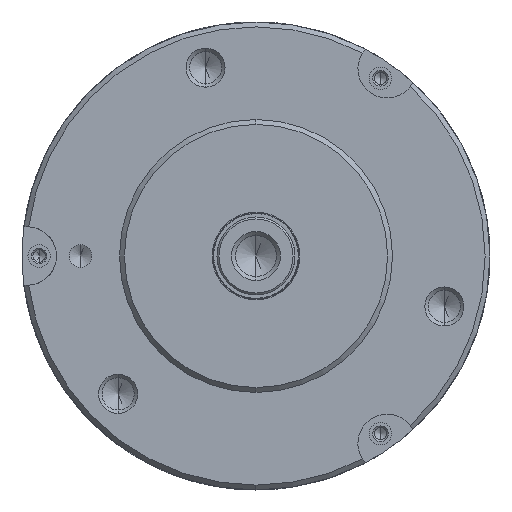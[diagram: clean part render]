
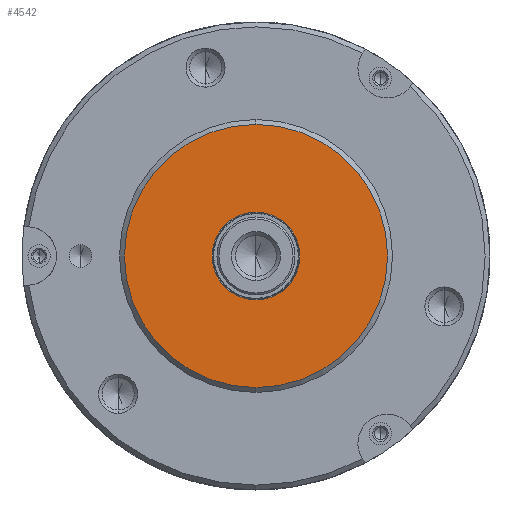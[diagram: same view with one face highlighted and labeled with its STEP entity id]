
A CAD part, left-side view. The second image highlights one B-rep face of the part: STEP entity #4542.
In plain terms, the highlighted planar face has unit normal (-1, 0, 0).
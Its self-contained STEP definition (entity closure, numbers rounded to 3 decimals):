
#332 = DIRECTION ( 'NONE',  ( 1., 0., 0. ) ) ;
#893 = DIRECTION ( 'NONE',  ( -1., 0., 0. ) ) ;
#988 = VERTEX_POINT ( 'NONE', #11091 ) ;
#1041 = DIRECTION ( 'NONE',  ( 0., 0., 1. ) ) ;
#1068 = DIRECTION ( 'NONE',  ( -1., 0., 0. ) ) ;
#1118 = CARTESIAN_POINT ( 'NONE',  ( 0., 0., 0. ) ) ;
#1672 = AXIS2_PLACEMENT_3D ( 'NONE', #10348, #1068, #1041 ) ;
#1710 = AXIS2_PLACEMENT_3D ( 'NONE', #11751, #332, #3539 ) ;
#2055 = CARTESIAN_POINT ( 'NONE',  ( 0., 0., -13.5 ) ) ;
#2176 = CARTESIAN_POINT ( 'NONE',  ( 0., 14., 0. ) ) ;
#2638 = EDGE_LOOP ( 'NONE', ( #10854, #3658 ) ) ;
#2940 = CIRCLE ( 'NONE', #1672, 13.5 ) ;
#3080 = AXIS2_PLACEMENT_3D ( 'NONE', #2176, #6832, #14917 ) ;
#3138 = CARTESIAN_POINT ( 'NONE',  ( 0., 0., -4.5 ) ) ;
#3472 = ORIENTED_EDGE ( 'NONE', *, *, #6015, .T. ) ;
#3539 = DIRECTION ( 'NONE',  ( 0., 0., -1. ) ) ;
#3658 = ORIENTED_EDGE ( 'NONE', *, *, #4210, .T. ) ;
#4210 = EDGE_CURVE ( 'NONE', #11165, #13426, #12038, .T. ) ;
#4542 = ADVANCED_FACE ( 'NONE', ( #8825, #14216 ), #13742, .T. ) ;
#4625 = DIRECTION ( 'NONE',  ( 1., 0., 0. ) ) ;
#5040 = EDGE_CURVE ( 'NONE', #13426, #11165, #13422, .T. ) ;
#5618 = CARTESIAN_POINT ( 'NONE',  ( 0., 0., 0. ) ) ;
#6015 = EDGE_CURVE ( 'NONE', #988, #9289, #2940, .T. ) ;
#6560 = EDGE_CURVE ( 'NONE', #9289, #988, #6974, .T. ) ;
#6832 = DIRECTION ( 'NONE',  ( -1., 0., 0. ) ) ;
#6974 = CIRCLE ( 'NONE', #14753, 13.5 ) ;
#7833 = EDGE_LOOP ( 'NONE', ( #12472, #3472 ) ) ;
#8825 = FACE_OUTER_BOUND ( 'NONE', #7833, .T. ) ;
#9289 = VERTEX_POINT ( 'NONE', #2055 ) ;
#9585 = DIRECTION ( 'NONE',  ( 0., 0., 1. ) ) ;
#10348 = CARTESIAN_POINT ( 'NONE',  ( 0., 0., 0. ) ) ;
#10854 = ORIENTED_EDGE ( 'NONE', *, *, #5040, .T. ) ;
#11091 = CARTESIAN_POINT ( 'NONE',  ( 0., 0., 13.5 ) ) ;
#11165 = VERTEX_POINT ( 'NONE', #12413 ) ;
#11751 = CARTESIAN_POINT ( 'NONE',  ( 0., 0., 0. ) ) ;
#12038 = CIRCLE ( 'NONE', #1710, 4.5 ) ;
#12413 = CARTESIAN_POINT ( 'NONE',  ( 0., 0., 4.5 ) ) ;
#12472 = ORIENTED_EDGE ( 'NONE', *, *, #6560, .T. ) ;
#12866 = AXIS2_PLACEMENT_3D ( 'NONE', #5618, #4625, #14405 ) ;
#13422 = CIRCLE ( 'NONE', #12866, 4.5 ) ;
#13426 = VERTEX_POINT ( 'NONE', #3138 ) ;
#13742 = PLANE ( 'NONE',  #3080 ) ;
#14216 = FACE_BOUND ( 'NONE', #2638, .T. ) ;
#14405 = DIRECTION ( 'NONE',  ( 0., 0., -1. ) ) ;
#14753 = AXIS2_PLACEMENT_3D ( 'NONE', #1118, #893, #9585 ) ;
#14917 = DIRECTION ( 'NONE',  ( 0., 0., 1. ) ) ;
